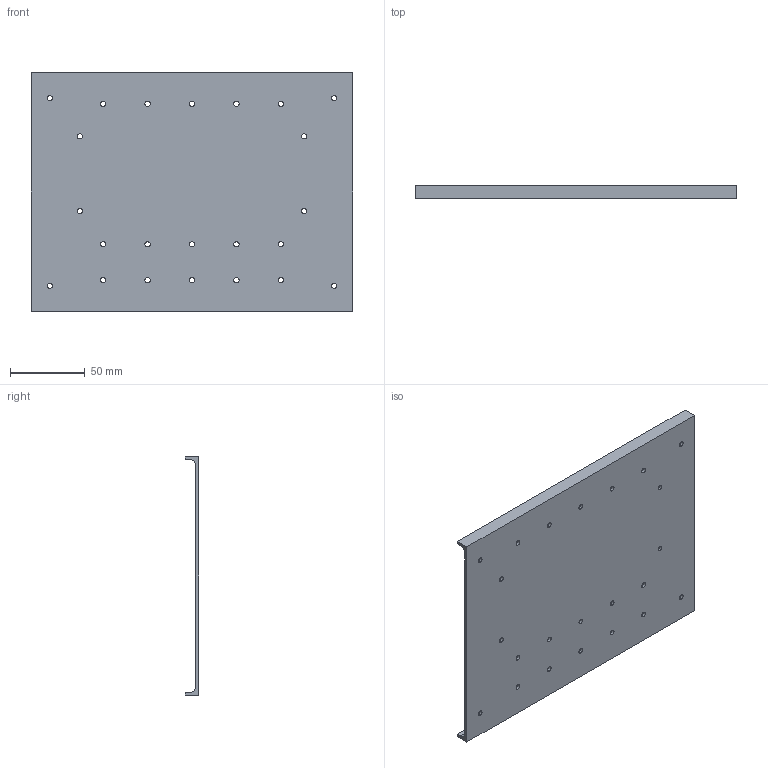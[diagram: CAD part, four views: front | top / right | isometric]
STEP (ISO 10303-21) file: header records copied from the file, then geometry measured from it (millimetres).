
FILE_DESCRIPTION (( 'STEP AP214' ), '1' );
FILE_NAME ('Box_drill_guide_Bottom.STEP', '2015-02-26T22:55:21', ( '' ), ( '' ), '', '', '' );
FILE_SCHEMA (( '' ));
Length unit declared in the file: millimetre
Products named in the file (1): Box_drill_guide_Bottom
Bounding box: 215.5 x 9 x 160 mm (x, y, z)
Volume: 76031.3 mm3; surface area: 75889 mm2
Topology: 1 solids, 1 shells, 58 faces, 168 edges, 112 vertices
Faces by surface type: cylinder 48, plane 10
Entity records: 2083 total; most frequent: DIRECTION 382, CARTESIAN_POINT 339, ORIENTED_EDGE 336, EDGE_CURVE 168, AXIS2_PLACEMENT_3D 155, VERTEX_POINT 112, EDGE_LOOP 104, CIRCLE 96
